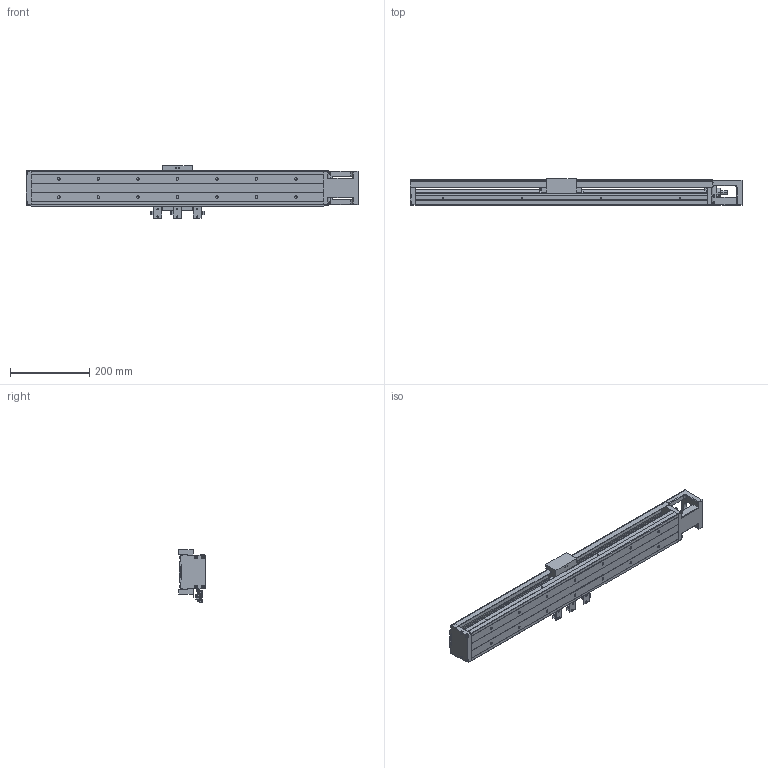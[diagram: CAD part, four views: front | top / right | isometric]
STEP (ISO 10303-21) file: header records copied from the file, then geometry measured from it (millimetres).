
FILE_DESCRIPTION (( 'STEP AP203' ), '1' );
FILE_NAME ('HKK86D20C-740A1-F0CS1.stp', '2021-11-29T08:01:46', ( '' ), ( '' ), 'SwSTEP 2.0', 'SolidWorks 2018', '' );
FILE_SCHEMA (( 'CONFIG_CONTROL_DESIGN' ));
Length unit declared in the file: millimetre
Products named in the file (1): HKK86D20C-740A1-F0CS1
Bounding box: 840 x 68 x 132.5 mm (x, y, z)
Volume: 2020856.4 mm3; surface area: 568590.6 mm2
Topology: 6 solids, 21 shells, 1458 faces, 3645 edges, 2298 vertices
Faces by surface type: plane 802, cylinder 469, cone 138, torus 32, sphere 9, bspline 8
Entity records: 43595 total; most frequent: CARTESIAN_POINT 8774, DIRECTION 7213, ORIENTED_EDGE 7158, EDGE_CURVE 3579, AXIS2_PLACEMENT_3D 2416, LINE 2381, VECTOR 2381, VERTEX_POINT 2294
